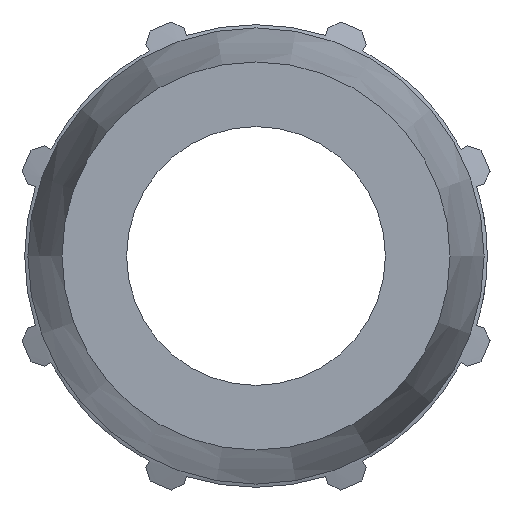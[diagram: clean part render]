
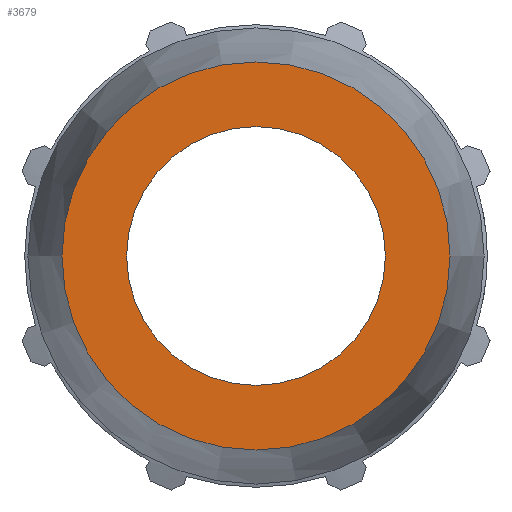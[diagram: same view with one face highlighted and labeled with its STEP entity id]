
A CAD part, left-side view. The second image highlights one B-rep face of the part: STEP entity #3679.
In plain terms, the highlighted planar face has unit normal (-1, 0, 0).
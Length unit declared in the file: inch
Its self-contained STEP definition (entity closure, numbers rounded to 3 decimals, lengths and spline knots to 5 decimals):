
#120=FACE_BOUND('',#521,.T.);
#176=PLANE('',#4005);
#315=FACE_OUTER_BOUND('',#520,.T.);
#520=EDGE_LOOP('',(#2900,#2901));
#521=EDGE_LOOP('',(#2902,#2903));
#755=CIRCLE('',#4003,0.98327);
#756=CIRCLE('',#4004,0.98327);
#757=CIRCLE('',#4006,0.65551);
#758=CIRCLE('',#4007,0.65551);
#1658=VERTEX_POINT('',#6054);
#1659=VERTEX_POINT('',#6055);
#1660=VERTEX_POINT('',#6060);
#1661=VERTEX_POINT('',#6061);
#2118=EDGE_CURVE('',#1658,#1659,#755,.T.);
#2120=EDGE_CURVE('',#1659,#1658,#756,.T.);
#2121=EDGE_CURVE('',#1660,#1661,#757,.T.);
#2122=EDGE_CURVE('',#1661,#1660,#758,.T.);
#2900=ORIENTED_EDGE('',*,*,#2118,.F.);
#2901=ORIENTED_EDGE('',*,*,#2120,.F.);
#2902=ORIENTED_EDGE('',*,*,#2121,.T.);
#2903=ORIENTED_EDGE('',*,*,#2122,.T.);
#3679=ADVANCED_FACE('',(#315,#120),#176,.F.);
#4003=AXIS2_PLACEMENT_3D('',#6056,#4720,#4721);
#4004=AXIS2_PLACEMENT_3D('',#6058,#4723,#4724);
#4005=AXIS2_PLACEMENT_3D('',#6059,#4725,#4726);
#4006=AXIS2_PLACEMENT_3D('',#6062,#4727,#4728);
#4007=AXIS2_PLACEMENT_3D('',#6063,#4729,#4730);
#4720=DIRECTION('center_axis',(1.,0.,0.));
#4721=DIRECTION('ref_axis',(0.,0.,-1.));
#4723=DIRECTION('center_axis',(1.,0.,0.));
#4724=DIRECTION('ref_axis',(0.,0.,-1.));
#4725=DIRECTION('center_axis',(1.,0.,0.));
#4726=DIRECTION('ref_axis',(0.,0.,-1.));
#4727=DIRECTION('center_axis',(1.,0.,0.));
#4728=DIRECTION('ref_axis',(0.,0.,-1.));
#4729=DIRECTION('center_axis',(1.,0.,0.));
#4730=DIRECTION('ref_axis',(0.,0.,-1.));
#6054=CARTESIAN_POINT('',(-3.425,0.98327,0.));
#6055=CARTESIAN_POINT('',(-3.425,-0.98327,0.));
#6056=CARTESIAN_POINT('Origin',(-3.425,0.,0.));
#6058=CARTESIAN_POINT('Origin',(-3.425,0.,0.));
#6059=CARTESIAN_POINT('Origin',(-3.425,0.65551,0.));
#6060=CARTESIAN_POINT('',(-3.425,0.65551,0.));
#6061=CARTESIAN_POINT('',(-3.425,-0.65551,0.));
#6062=CARTESIAN_POINT('Origin',(-3.425,0.,0.));
#6063=CARTESIAN_POINT('Origin',(-3.425,0.,0.));
